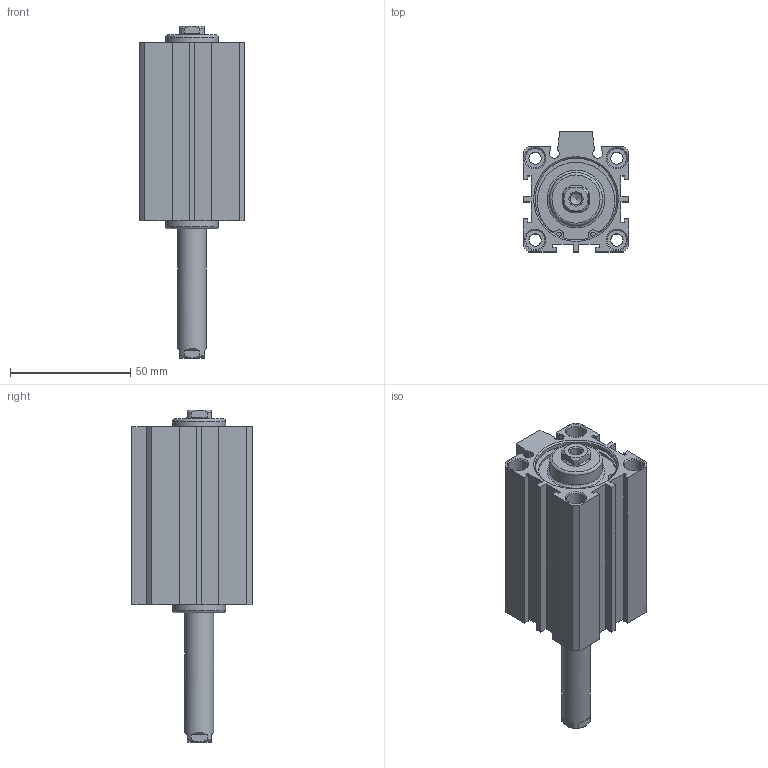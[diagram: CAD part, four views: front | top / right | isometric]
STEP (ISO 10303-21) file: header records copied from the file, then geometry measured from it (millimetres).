
FILE_DESCRIPTION((''),'2;1');
FILE_NAME('I:\3D電子目錄\氣缸\JDD\JDD\JDD32\JDD32x50.stp','2007-02-08T10:18:03',('662F206'),(''),'Autodesk Inventor 10','Autodesk Inventor 10','');
FILE_SCHEMA(('AUTOMOTIVE_DESIGN { 1 0 10303 214 1 1 1 1 }'));
Length unit declared in the file: millimetre
Products named in the file (3): JDD32; R 形環 35
Assembly tree (3 placements, depth 2):
  JDD32
    JDD32
    R 形環 35  x2
Bounding box: 44 x 50 x 138 mm (x, y, z)
Volume: 131110.6 mm3; surface area: 34528 mm2
Topology: 3 solids, 3 shells, 177 faces, 425 edges, 276 vertices
Faces by surface type: plane 94, cylinder 49, cone 22, bspline 10, torus 2
Full cylindrical faces by diameter (mm): 1.9 x4, 2.2 x2, 5.1 x4, 8 x8, 12 x1, 22 x2, 34 x4, 36 x2
Entity records: 4715 total; most frequent: CARTESIAN_POINT 983, DIRECTION 774, ORIENTED_EDGE 674, EDGE_CURVE 337, AXIS2_PLACEMENT_3D 292, EDGE_LOOP 248, VERTEX_POINT 247, VECTOR 190
